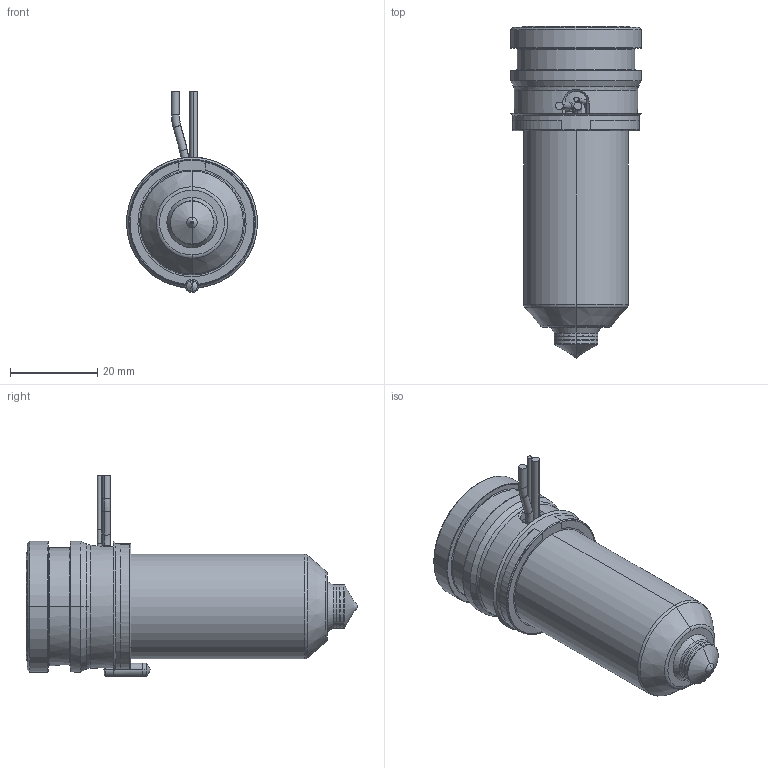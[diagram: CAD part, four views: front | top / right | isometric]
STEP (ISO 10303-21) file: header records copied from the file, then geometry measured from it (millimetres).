
FILE_DESCRIPTION((''),'2;1');
FILE_NAME('MPN-10-29-TS10-056-A','2026-02-05T12:32:33',('UPTIO'),('Thermoplay S.p.A.'),'CREO PARAMETRIC BY PTC INC, 2023494','CREO PARAMETRIC BY PTC INC, 2023494','');
FILE_SCHEMA(('CONFIG_CONTROL_DESIGN','SHAPE_APPEARANCE_LAYERS_GROUPS'));
Length unit declared in the file: millimetre
Products named in the file (1): MPN-10-29-TS10-056-A
Bounding box: 30 x 76 x 46 mm (x, y, z)
Volume: 25050.5 mm3; surface area: 24355.2 mm2
Topology: 2 solids, 3 shells, 552 faces, 1455 edges, 898 vertices
Faces by surface type: cylinder 180, plane 145, bspline 78, torus 68, cone 66, sphere 11, extrusion 4
Entity records: 30869 total; most frequent: CARTESIAN_POINT 14490, ORIENTED_EDGE 2894, DIRECTION 2651, EDGE_CURVE 1447, AXIS2_PLACEMENT_3D 1051, VERTEX_POINT 898, EDGE_LOOP 581, CIRCLE 580
